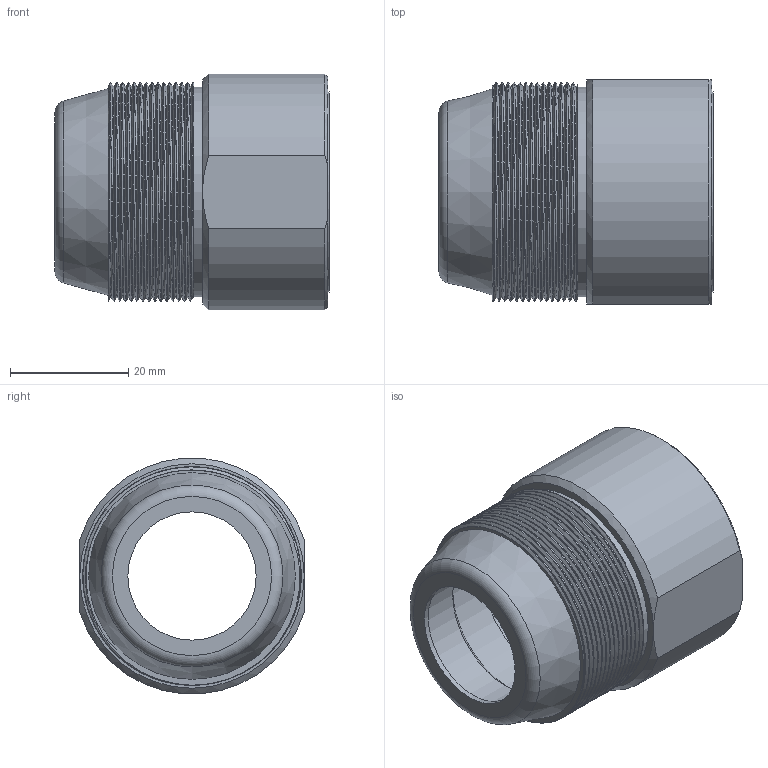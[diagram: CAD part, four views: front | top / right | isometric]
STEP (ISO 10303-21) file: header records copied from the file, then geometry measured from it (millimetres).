
FILE_DESCRIPTION (( 'STEP AP203' ), '1' );
FILE_NAME ('SH.IR7.A-»¤Ì×P-20250519.STEP', '2025-05-21T06:32:26', ( '' ), ( '' ), 'SwSTEP 2.0', 'SolidWorks 2023', '' );
FILE_SCHEMA (( 'CONFIG_CONTROL_DESIGN' ));
Length unit declared in the file: millimetre
Products named in the file (1): SH.IR7.A-护套P-20250519
Bounding box: 46.4 x 38 x 39.86 mm (x, y, z)
Volume: 16368.5 mm3; surface area: 13072.1 mm2
Topology: 1 solids, 1 shells, 37 faces, 75 edges, 49 vertices
Faces by surface type: plane 13, cylinder 11, cone 6, bspline 6, torus 1
Full cylindrical faces by diameter (mm): 21.72 x1, 25 x1, 31 x1, 32.5 x2, 34 x1, 35.5 x1
Entity records: 5544 total; most frequent: CARTESIAN_POINT 4785, DIRECTION 130, ORIENTED_EDGE 128, EDGE_CURVE 64, AXIS2_PLACEMENT_3D 62, EDGE_LOOP 58, VERTEX_POINT 48, FACE_OUTER_BOUND 45
